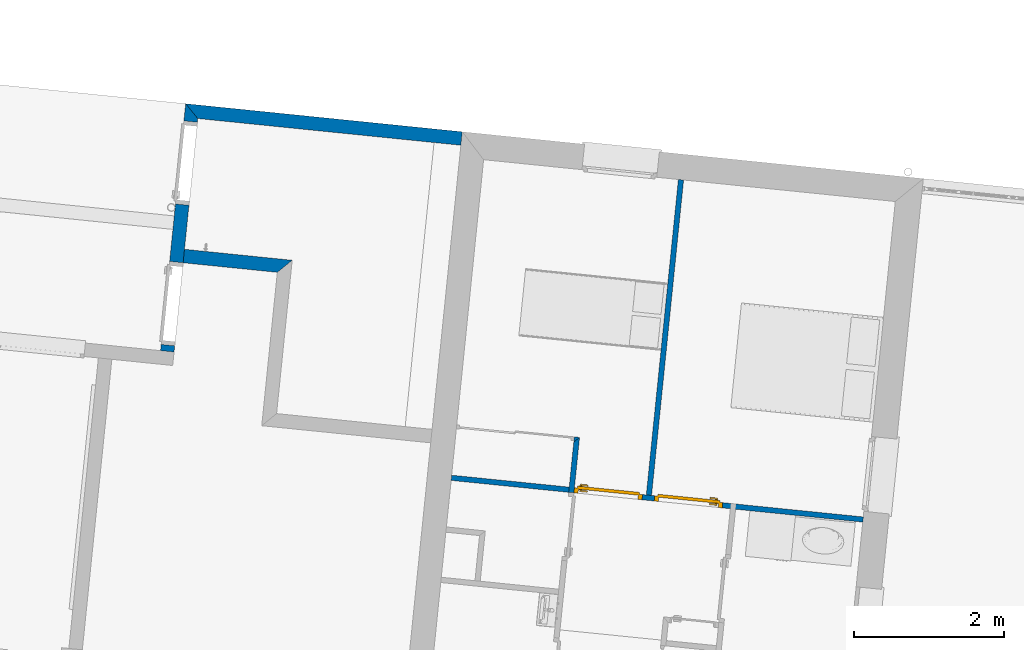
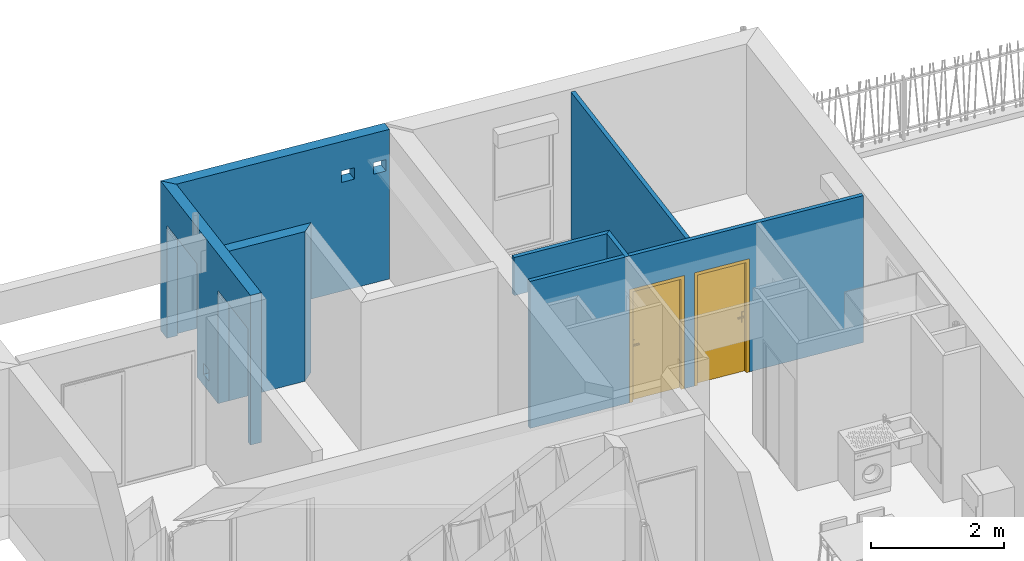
# One storey, part 80 of 171: 7 walls, 2 doors, 8 openings.
"""IFC2X3 building model written with IfcOpenShell, lengths in millimetres."""

from ifc_helpers import new_model, entity, si_unit, converted_unit, derived_unit, money_unit, direction, frame, origin_with_axes, origin_2d_with_axis, place, context, subcontext, project, spatial, polyline, rectangle, outline, extrude, faceted_brep, source, transform, mapped, material, layer, layer_set, layer_usage, type_object, element, fill, save


model = new_model("IFC2X3")

# Units and contexts
model_context = context("Model", 3, precision=0.01, world=origin_with_axes(), true_north=direction((0.0, 1.0)))
body_context = subcontext(model_context, "Body", "Model", "MODEL_VIEW")
ifc_project = project(units=[si_unit("LENGTHUNIT", "METRE", prefix="MILLI"), si_unit("AREAUNIT", "SQUARE_METRE"), si_unit("VOLUMEUNIT", "CUBIC_METRE"), converted_unit("PLANEANGLEUNIT", "DEGREE", entity("IfcPlaneAngleMeasure", 0.0174532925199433), si_unit("PLANEANGLEUNIT", "RADIAN"), dimensions=[0, 0, 0, 0, 0, 0, 0]), money_unit("USD"), converted_unit("TIMEUNIT", "Year", entity("IfcTimeMeasure", 31557600.0), si_unit("TIMEUNIT", "SECOND"), dimensions=[0, 0, 1, 0, 0, 0, 0]), si_unit("MASSUNIT", "GRAM", prefix="KILO"), si_unit("THERMODYNAMICTEMPERATUREUNIT", "DEGREE_CELSIUS"), si_unit("LUMINOUSINTENSITYUNIT", "LUMEN"), si_unit("ENERGYUNIT", "JOULE", prefix="MEGA"), derived_unit("THERMALCONDUCTANCEUNIT", [(si_unit("POWERUNIT", "WATT"), 1), (si_unit("LENGTHUNIT", "METRE"), -1), (si_unit("THERMODYNAMICTEMPERATUREUNIT", "KELVIN"), -1)]), derived_unit("SPECIFICHEATCAPACITYUNIT", [(si_unit("ENERGYUNIT", "JOULE"), 1), (si_unit("MASSUNIT", "GRAM", prefix="KILO"), -1), (si_unit("THERMODYNAMICTEMPERATUREUNIT", "KELVIN"), -1)]), derived_unit("MASSDENSITYUNIT", [(si_unit("MASSUNIT", "GRAM", prefix="KILO"), 1), (si_unit("VOLUMEUNIT", "CUBIC_METRE"), -1)])], contexts=[model_context])

# Site, building, storey
site_placement = place(None, origin_with_axes())
site = spatial("IfcSite", under=ifc_project, at=site_placement, Name="Site", CompositionType="ELEMENT")
building_placement = place(site_placement, origin_with_axes())
building = spatial("IfcBuilding", under=site, at=building_placement, Name="Bâtiment", CompositionType="ELEMENT")
storey_placement = place(building_placement, frame((0.0, 0.0, 3000.0), z_axis=(0.0, 0.0, 1.0), x_axis=(1.0, 0.0, 0.0)))
storey = spatial("IfcBuildingStorey", under=building, at=storey_placement, Name="rdc", CompositionType="ELEMENT", Elevation=3000.0)

# Wall, openings
ifc_material_1 = material(Name="Parpaing 314940890")
ifc_layer_1 = layer(ifc_material_1, 180.0, ventilated="UNKNOWN")
ifc_layer_set_1 = layer_set([ifc_layer_1], Name="Beton  18 0018356637")
ifc_layer_usage_1 = layer_usage(ifc_layer_set_1, "AXIS2", "POSITIVE", 0.0)
wall_type_1 = type_object("IfcWallType", Name="Beton  18 0018356637 180", PredefinedType="NOTDEFINED")
wall_1_placement = place(storey_placement, frame((2230375.549323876, -605239.4852255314, 0.0), z_axis=(0.0, 0.0, 1.0), x_axis=(-0.1011032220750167, -0.9948759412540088, 0.0)))
wall_1 = element("IfcWallStandardCase", 1, at=wall_1_placement, inside=storey, type_object=wall_type_1, material=ifc_layer_usage_1, Name="Mur-142", context=body_context, shape_type="SweptSolid", body=[
    extrude(outline(polyline([(0.0, 0.0), (3300.366692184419, 0.0), (3300.383693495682, 180.0000000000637), (180.000000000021, 180.0000000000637), (0.0, 0.0)])), origin_with_axes(), (0.0, 0.0, 1.0), 2750.0),
])
opening_1_placement = place(wall_1_placement, frame((1679.999976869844, -1.13686837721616e-10, 200.0000000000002), z_axis=(0.0, 0.0, 1.0), x_axis=(1.0, 0.0, 0.0)))
element("IfcOpeningElement", 2, at=opening_1_placement, cuts=wall_1, Name="Fen-210", context=body_context, shape_type="SweptSolid", body=[
    extrude(rectangle(XDim=209.9999999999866, YDim=210.0, at=origin_2d_with_axis()), frame((0.0, 290.0000000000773, 105.0), z_axis=(0.0, 1.0, 0.0), x_axis=(1.0, 0.0, 0.0)), (0.0, 0.0, -1.0), 470.0),
    extrude(rectangle(XDim=209.9999999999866, YDim=210.0, at=origin_2d_with_axis()), frame((0.0, 289.9999999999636, 105.0), z_axis=(0.0, -1.0, 0.0), x_axis=(1.0, 0.0, 0.0)), (0.0, 0.0, -1.0), 470.0),
])
opening_2_placement = place(wall_1_placement, frame((2662.573142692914, 0.0, 0.0), z_axis=(0.0, 0.0, 1.0), x_axis=(1.0, 0.0, 0.0)))
element("IfcOpeningElement", 3, at=opening_2_placement, cuts=wall_1, Name="Por-302", context=body_context, shape_type="SweptSolid", body=[
    extrude(rectangle(XDim=1109.999992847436, YDim=2080.0, at=origin_2d_with_axis()), frame((-3.576268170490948e-06, 179.9999999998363, 1040.0), z_axis=(0.0, 1.0, 0.0), x_axis=(1.0, 0.0, 0.0)), (0.0, 0.0, -1.0), 360.0),
])
opening_3_placement = place(wall_1_placement, frame((784.7579754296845, -1.13686837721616e-10, 0.0), z_axis=(0.0, 0.0, 1.0), x_axis=(1.0, 0.0, 0.0)))
element("IfcOpeningElement", 4, at=opening_3_placement, cuts=wall_1, Name="Por-302", context=body_context, shape_type="SweptSolid", body=[
    extrude(rectangle(XDim=1109.999992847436, YDim=2080.0, at=origin_2d_with_axis()), frame((3.576296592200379e-06, 179.99999999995, 1040.0), z_axis=(0.0, -1.0, 0.0), x_axis=(-1.0, 0.0, 0.0)), (0.0, 0.0, 1.0), 360.0),
])

# Wall
ifc_material_2 = material(Name="Hachure solide 268963992")
ifc_layer_2 = layer(ifc_material_2, 70.0, ventilated="UNKNOWN")
ifc_layer_set_2 = layer_set([ifc_layer_2], Name="Cloison 70 0826278243")
ifc_layer_usage_2 = layer_usage(ifc_layer_set_2, "AXIS2", "NEGATIVE", 0.0)
wall_type_2 = type_object("IfcWallType", Name="Cloison 70 0826278243 70", PredefinedType="NOTDEFINED")
wall_2_placement = place(storey_placement, frame((2235612.22344796, -609676.500557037, 0.0), z_axis=(0.0, 0.0, 1.0), x_axis=(-0.1011032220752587, -0.9948759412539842, 0.0)))
element("IfcWallStandardCase", 5, at=wall_2_placement, inside=storey, type_object=wall_type_2, material=ifc_layer_usage_2, Name="Mur-153", context=body_context, shape_type="SweptSolid", body=[
    extrude(outline(polyline([(70.00000000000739, -69.99999999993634), (740.000000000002, -69.99999999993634), (739.9999999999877, 0.0), (0.0, 0.0), (70.00000000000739, -69.99999999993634)])), origin_with_axes(), (0.0, 0.0, 1.0), 2700.0),
])

# Wall, openings, doors
ifc_layer_usage_3 = layer_usage(ifc_layer_set_2, "AXIS2", "NEGATIVE", 0.0)
wall_3_placement = place(storey_placement, frame((2233911.506301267, -610178.5677664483, 0.0), z_axis=(0.0, 0.0, 1.0), x_axis=(0.994902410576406, -0.1008424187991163, 0.0)))
wall_3 = element("IfcWallStandardCase", 6, at=wall_3_placement, inside=storey, type_object=wall_type_2, material=ifc_layer_usage_3, Name="Mur-153", context=body_context, shape_type="SweptSolid", body=[
    extrude(outline(polyline([(2.273736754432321e-10, -70.00000000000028), (5502.991472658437, -70.00000000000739), (5502.991472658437, 0.0), (2.273736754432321e-10, 0.0), (2.273736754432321e-10, -70.00000000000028)])), origin_with_axes(), (0.0, 0.0, 1.0), 2700.0),
])
opening_4_placement = place(wall_3_placement, frame((2096.242148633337, 0.0, 0.0), z_axis=(0.0, 0.0, 1.0), x_axis=(1.0, 0.0, 0.0)))
opening_4 = element("IfcOpeningElement", 7, at=opening_4_placement, cuts=wall_3, Name="Por-281", context=body_context, shape_type="SweptSolid", body=[
    extrude(rectangle(XDim=910.0, YDim=2080.0, at=origin_2d_with_axis()), frame((1.13686837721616e-10, -69.99999999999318, 1040.0), z_axis=(0.0, 1.0, 0.0), x_axis=(1.0, 0.0, 0.0)), (0.0, 0.0, 1.0), 140.0),
])
opening_5_placement = place(wall_3_placement, frame((3168.361496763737, 0.0, 0.0), z_axis=(0.0, 0.0, 1.0), x_axis=(1.0, 0.0, 0.0)))
opening_5 = element("IfcOpeningElement", 8, at=opening_5_placement, cuts=wall_3, Name="Por-282", context=body_context, shape_type="SweptSolid", body=[
    extrude(rectangle(XDim=910.0, YDim=2080.0, at=origin_2d_with_axis()), frame((-1.13686837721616e-10, -70.00000000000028, 1040.0), z_axis=(0.0, -1.0, 0.0), x_axis=(-1.0, 0.0, 0.0)), (0.0, 0.0, -1.0), 140.0),
])
door_style = type_object("IfcDoorStyle", Name="Porte_1v", ConstructionType="NOTDEFINED", OperationType="NOTDEFINED", ParameterTakesPrecedence=False, Sizeable=False)
shared_shape_1 = source(origin_with_axes(), body_context, "Body", "Brep", [
    faceted_brep([(455.0, 0.0, 0.0), (415.0000000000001, 0.0, 0.0), (415.0000000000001, 0.0, 2040.0), (-415.0000000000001, 0.0, 2040.0), (-415.0000000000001, 0.0, 0.0), (-455.0, 0.0, 0.0), (-455.0, 0.0, 2080.0), (455.0, 0.0, 2080.0), (455.0, -70.0, 0.0), (400.0, -70.0, 0.0), (400.0, -15.0, 0.0), (415.0000000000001, -15.0, 0.0), (415.0000000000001, -15.0, 2040.0), (-415.0000000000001, -15.0, 2040.0), (-415.0000000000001, -15.0, 0.0), (-400.0, -15.0, 0.0), (-400.0, -70.0, 0.0), (-455.0, -70.0, 0.0), (-455.0, -70.0, 2080.0), (455.0, -70.0, 2080.0), (-400.0, -70.0, 2025.0), (400.0, -70.0, 2025.0), (400.0, -15.0, 2025.0), (-400.0, -15.0, 2025.0)], [[[0, 1, 2, 3, 4, 5, 6, 7]], [[0, 8, 9, 10, 11, 1]], [[1, 11, 12, 2]], [[2, 12, 13, 3]], [[3, 13, 14, 4]], [[5, 4, 14, 15, 16, 17]], [[18, 6, 5, 17]], [[19, 7, 6, 18]], [[8, 0, 7, 19]], [[9, 8, 19, 18, 17, 16, 20, 21]], [[10, 9, 21, 22]], [[11, 10, 22, 23, 15, 14, 13, 12]], [[23, 20, 16, 15]], [[22, 21, 20, 23]]]),
    faceted_brep([(-350.0000000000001, -15.0, 900.0), (-390.0, -15.0, 900.0), (-390.0, -15.0, 1100.0), (-350.0000000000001, -15.0, 1100.0), (-350.0000000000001, -25.0, 900.0), (-390.0, -25.0, 900.0), (-390.0, -25.0, 1100.0), (-350.0000000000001, -25.0, 1100.0)], [[[0, 1, 2, 3]], [[1, 0, 4, 5]], [[2, 1, 5, 6]], [[3, 2, 6, 7]], [[0, 3, 7, 4]], [[5, 4, 7, 6]]]),
    faceted_brep([(-280.0, -25.0, 1000.0), (-380.0, -25.0, 1000.0), (-380.0, -25.0, 1020.0), (-280.0, -25.0, 1020.0), (-280.0, -45.0, 1000.0), (-380.0, -45.0, 1000.0), (-380.0, -45.0, 1020.0), (-280.0, -45.0, 1020.0)], [[[0, 1, 2, 3]], [[1, 0, 4, 5]], [[2, 1, 5, 6]], [[3, 2, 6, 7]], [[0, 3, 7, 4]], [[5, 4, 7, 6]]]),
    faceted_brep([(-350.0000000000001, 35.0, 900.0), (-390.0, 35.0, 900.0), (-390.0, 35.0, 1100.0), (-350.0000000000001, 35.0, 1100.0), (-350.0000000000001, 25.0, 900.0), (-390.0, 25.0, 900.0), (-390.0, 25.0, 1100.0), (-350.0000000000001, 25.0, 1100.0)], [[[0, 1, 2, 3]], [[1, 0, 4, 5]], [[2, 1, 5, 6]], [[3, 2, 6, 7]], [[0, 3, 7, 4]], [[5, 4, 7, 6]]]),
    faceted_brep([(-280.0, 55.00000000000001, 1000.0), (-380.0, 55.00000000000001, 1000.0), (-380.0, 55.00000000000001, 1020.0), (-280.0, 55.00000000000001, 1020.0), (-280.0, 35.0, 1000.0), (-380.0, 35.0, 1000.0), (-380.0, 35.0, 1020.0), (-280.0, 35.0, 1020.0)], [[[0, 1, 2, 3]], [[1, 0, 4, 5]], [[2, 1, 5, 6]], [[3, 2, 6, 7]], [[0, 3, 7, 4]], [[5, 4, 7, 6]]]),
    faceted_brep([(-415.0000000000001, 25.0, 0.0), (415.0000000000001, 25.0, 0.0), (415.0000000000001, -15.0, 0.0), (-415.0000000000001, -15.0, 0.0), (-415.0000000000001, 25.0, 2040.0), (415.0000000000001, 25.0, 2040.0), (415.0000000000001, -15.0, 2040.0), (-415.0000000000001, -15.0, 2040.0)], [[[0, 1, 2, 3]], [[0, 4, 5, 1]], [[1, 5, 6, 2]], [[3, 2, 6, 7]], [[4, 0, 3, 7]], [[5, 4, 7, 6]]]),
])
door_1_placement = place(opening_4_placement, frame((-414.9999999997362, 0.0, 0.0), z_axis=(0.0, 0.0, 1.0), x_axis=(1.0, 0.0, 0.0)))
door_1 = element("IfcDoor", 9, at=door_1_placement, inside=storey, type_object=door_style, Name="Por-281", OverallHeight=2040.0, OverallWidth=830.0, context=body_context, shape_type="MappedRepresentation", body=[
    mapped(shared_shape_1, transform((414.9999999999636, 0.0, 0.0))),
])
fill(opening_4, door_1)
shared_shape_2 = source(origin_with_axes(), body_context, "Body", "Brep", [
    faceted_brep([(-454.9999999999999, 0.0, 0.0), (-454.9999999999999, 0.0, 2080.0), (454.9999999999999, 0.0, 2080.0), (454.9999999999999, 0.0, 0.0), (414.9999999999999, 0.0, 0.0), (414.9999999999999, 0.0, 2040.0), (-414.9999999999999, 0.0, 2040.0), (-414.9999999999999, 0.0, 0.0), (-454.9999999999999, -69.99999999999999, 0.0), (-454.9999999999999, -69.99999999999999, 2080.0), (454.9999999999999, -69.99999999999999, 2080.0), (454.9999999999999, -69.99999999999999, 0.0), (399.9999999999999, -69.99999999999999, 0.0), (399.9999999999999, -15.0, 0.0), (414.9999999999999, -15.0, 0.0), (414.9999999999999, -15.0, 2040.0), (-414.9999999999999, -14.99999999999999, 2040.0), (-414.9999999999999, -14.99999999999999, 0.0), (-399.9999999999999, -14.99999999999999, 0.0), (-399.9999999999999, -69.99999999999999, 0.0), (-399.9999999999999, -69.99999999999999, 2025.0), (399.9999999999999, -69.99999999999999, 2025.0), (399.9999999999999, -15.0, 2025.0), (-399.9999999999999, -14.99999999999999, 2025.0)], [[[0, 1, 2, 3, 4, 5, 6, 7]], [[8, 9, 1, 0]], [[9, 10, 2, 1]], [[10, 11, 3, 2]], [[3, 11, 12, 13, 14, 4]], [[5, 4, 14, 15]], [[6, 5, 15, 16]], [[7, 6, 16, 17]], [[0, 7, 17, 18, 19, 8]], [[19, 20, 21, 12, 11, 10, 9, 8]], [[22, 13, 12, 21]], [[17, 16, 15, 14, 13, 22, 23, 18]], [[18, 23, 20, 19]], [[23, 22, 21, 20]]]),
    faceted_brep([(350.0, -15.0, 900.0), (350.0, -15.0, 1100.0), (389.9999999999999, -15.0, 1100.0), (389.9999999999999, -15.0, 900.0), (350.0, -25.0, 900.0), (350.0, -25.0, 1100.0), (389.9999999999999, -25.0, 1100.0), (389.9999999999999, -25.0, 900.0)], [[[0, 1, 2, 3]], [[0, 4, 5, 1]], [[1, 5, 6, 2]], [[2, 6, 7, 3]], [[3, 7, 4, 0]], [[7, 6, 5, 4]]]),
    faceted_brep([(279.9999999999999, -25.0, 1000.0), (279.9999999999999, -25.0, 1020.0), (379.9999999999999, -25.0, 1020.0), (379.9999999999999, -25.0, 1000.0), (279.9999999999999, -45.0, 1000.0), (279.9999999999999, -45.0, 1020.0), (379.9999999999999, -45.0, 1020.0), (379.9999999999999, -45.0, 1000.0)], [[[0, 1, 2, 3]], [[0, 4, 5, 1]], [[1, 5, 6, 2]], [[2, 6, 7, 3]], [[3, 7, 4, 0]], [[7, 6, 5, 4]]]),
    faceted_brep([(350.0, 34.99999999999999, 900.0), (350.0, 34.99999999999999, 1100.0), (389.9999999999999, 34.99999999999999, 1100.0), (389.9999999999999, 34.99999999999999, 900.0), (350.0, 24.99999999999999, 900.0), (350.0, 24.99999999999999, 1100.0), (389.9999999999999, 24.99999999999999, 1100.0), (389.9999999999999, 24.99999999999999, 900.0)], [[[0, 1, 2, 3]], [[0, 4, 5, 1]], [[1, 5, 6, 2]], [[2, 6, 7, 3]], [[3, 7, 4, 0]], [[7, 6, 5, 4]]]),
    faceted_brep([(279.9999999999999, 54.99999999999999, 1000.0), (279.9999999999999, 54.99999999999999, 1020.0), (379.9999999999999, 54.99999999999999, 1020.0), (379.9999999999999, 54.99999999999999, 1000.0), (279.9999999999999, 34.99999999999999, 1000.0), (279.9999999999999, 34.99999999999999, 1020.0), (379.9999999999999, 34.99999999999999, 1020.0), (379.9999999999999, 34.99999999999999, 1000.0)], [[[0, 1, 2, 3]], [[0, 4, 5, 1]], [[1, 5, 6, 2]], [[2, 6, 7, 3]], [[3, 7, 4, 0]], [[7, 6, 5, 4]]]),
    faceted_brep([(414.9999999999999, 24.99999999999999, 0.0), (414.9999999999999, -15.0, 0.0), (-414.9999999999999, -14.99999999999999, 0.0), (-414.9999999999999, 25.0, 0.0), (414.9999999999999, 24.99999999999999, 2040.0), (414.9999999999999, -15.0, 2040.0), (-414.9999999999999, -14.99999999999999, 2040.0), (-414.9999999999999, 25.0, 2040.0)], [[[0, 1, 2, 3]], [[4, 5, 1, 0]], [[1, 5, 6, 2]], [[3, 2, 6, 7]], [[0, 3, 7, 4]], [[7, 6, 5, 4]]]),
])
door_2_placement = place(opening_5_placement, frame((-414.9999999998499, 0.0, 0.0), z_axis=(0.0, 0.0, 1.0), x_axis=(1.0, 0.0, 0.0)))
door_2 = element("IfcDoor", 10, at=door_2_placement, inside=storey, type_object=door_style, Name="Por-282", OverallHeight=2040.0, OverallWidth=830.0, context=body_context, shape_type="MappedRepresentation", body=[
    mapped(shared_shape_2, transform((414.9999999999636, 0.0, 0.0))),
])
fill(opening_5, door_2)

# Wall, opening
ifc_layer_usage_4 = layer_usage(ifc_layer_set_2, "AXIS2", "NEGATIVE", 0.0)
wall_4_placement = place(storey_placement, frame((2234019.011234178, -609514.5920400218, 0.0), z_axis=(0.0, 0.0, 1.0), x_axis=(0.9948759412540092, -0.1011032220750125, 0.0)))
wall_4 = element("IfcWallStandardCase", 11, at=wall_4_placement, inside=storey, type_object=wall_type_2, material=ifc_layer_usage_4, Name="Mur-153", context=body_context, shape_type="SweptSolid", body=[
    extrude(outline(polyline([(0.0, -69.99999999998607), (1531.417973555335, -69.99999999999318), (1601.417973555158, 0.0), (0.0, 0.0), (0.0, -69.99999999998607)])), origin_with_axes(), (0.0, 0.0, 1.0), 2700.0),
])
opening_6_placement = place(wall_4_placement, frame((745.7089867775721, 0.0, 0.0), z_axis=(0.0, 0.0, 1.0), x_axis=(1.0, 0.0, 0.0)))
element("IfcOpeningElement", 12, at=opening_6_placement, cuts=wall_4, Name="Por-325", context=body_context, shape_type="SweptSolid", body=[
    extrude(rectangle(XDim=1571.417973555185, YDim=2000.0, at=origin_2d_with_axis()), frame((0.0, 0.0, 1000.0), z_axis=(0.0, -1.0, 0.0), x_axis=(1.0, 0.0, 0.0)), (0.0, 0.0, -1.0), 70.0),
    extrude(rectangle(XDim=1571.417973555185, YDim=2000.0, at=origin_2d_with_axis()), frame((0.0, 0.0, 1000.0), z_axis=(0.0, 1.0, 0.0), x_axis=(1.0, 0.0, 0.0)), (0.0, 0.0, -1.0), 70.0),
])

# Walls
ifc_layer_usage_5 = layer_usage(ifc_layer_set_2, "AXIS2", "NEGATIVE", 0.0)
wall_5_placement = place(storey_placement, frame((2237030.094661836, -605915.7464026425, 0.0), z_axis=(0.0, 0.0, 1.0), x_axis=(-0.1011032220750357, -0.9948759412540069, 0.0)))
element("IfcWallStandardCase", 13, at=wall_5_placement, inside=storey, type_object=wall_type_2, material=ifc_layer_usage_5, Name="Mur-153", context=body_context, shape_type="SweptSolid", body=[
    extrude(outline(polyline([(339.9999999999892, -70.00000000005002), (4555.59575076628, -70.00000000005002), (4555.577400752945, 0.0), (339.9999999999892, -1.13686837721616e-10), (339.9999999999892, -70.00000000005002)])), origin_with_axes(), (0.0, 0.0, 1.0), 2700.0),
])
ifc_material_3 = material(Name="Parpaing 312445824")
ifc_layer_3 = layer(ifc_material_3, 180.0, ventilated="UNKNOWN")
ifc_layer_set_3 = layer_set([ifc_layer_3], Name="Beton  18 0836643197")
ifc_layer_usage_6 = layer_usage(ifc_layer_set_3, "AXIS2", "NEGATIVE", 0.0)
wall_type_3 = type_object("IfcWallType", Name="Beton  18 0836643197 180", PredefinedType="NOTDEFINED")
wall_6_placement = place(storey_placement, frame((2230180.665481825, -607157.1813592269, 0.0), z_axis=(0.0, 0.0, 1.0), x_axis=(0.9948668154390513, -0.1011929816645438, 0.0)))
element("IfcWallStandardCase", 14, at=wall_6_placement, inside=storey, type_object=wall_type_3, material=ifc_layer_usage_6, Name="Mur-142", context=body_context, shape_type="SweptSolid", body=[
    extrude(outline(polyline([(180.0162284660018, -179.9999999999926), (1439.273399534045, -179.9999999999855), (1619.273399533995, 0.0), (179.9999884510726, 0.0), (180.0162284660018, -179.9999999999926)])), origin_with_axes(), (0.0, 0.0, 1.0), 2750.0),
])

# Wall, openings
ifc_layer_4 = layer(ifc_material_1, 180.0, ventilated="UNKNOWN")
ifc_layer_set_4 = layer_set([ifc_layer_4], Name="Beton  18")
ifc_layer_usage_7 = layer_usage(ifc_layer_set_4, "AXIS2", "POSITIVE", 0.0)
wall_type_4 = type_object("IfcWallType", Name="Beton  18 180", PredefinedType="NOTDEFINED")
wall_7_placement = place(storey_placement, frame((2234370.972385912, -605645.5158956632, 0.0), z_axis=(0.0, 0.0, 1.0), x_axis=(-0.9948759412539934, 0.1011032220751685, 0.0)))
wall_7 = element("IfcWallStandardCase", 15, at=wall_7_placement, inside=storey, type_object=wall_type_4, material=ifc_layer_usage_7, Name="Mur-142", context=body_context, shape_type="SweptSolid", body=[
    extrude(outline(polyline([(320.0000109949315, 0.0), (4016.001288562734, 0.0), (3836.00128856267, 179.9999999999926), (319.9528252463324, 179.9999999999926), (320.0000109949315, 0.0)])), origin_with_axes(), (0.0, 0.0, 1.0), 2750.0),
])
opening_7_placement = place(wall_7_placement, frame((1002.398973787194, 0.0, 2000.0), z_axis=(0.0, 0.0, 1.0), x_axis=(1.0, 0.0, 0.0)))
element("IfcOpeningElement", 16, at=opening_7_placement, cuts=wall_7, Name="Fen-210", context=body_context, shape_type="SweptSolid", body=[
    extrude(rectangle(XDim=209.9999999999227, YDim=210.0, at=origin_2d_with_axis()), frame((0.0, -110.0000000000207, 105.0000000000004), z_axis=(0.0, -1.0, 0.0), x_axis=(1.0, 0.0, 0.0)), (0.0, 0.0, -1.0), 470.0),
    extrude(rectangle(XDim=209.9999999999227, YDim=210.0, at=origin_2d_with_axis()), frame((0.0, -110.0000000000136, 105.0000000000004), z_axis=(0.0, 1.0, 0.0), x_axis=(1.0, 0.0, 0.0)), (0.0, 0.0, -1.0), 470.0),
])
opening_8_placement = place(wall_7_placement, frame((481.2875411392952, 0.0, 2000.0), z_axis=(0.0, 0.0, 1.0), x_axis=(1.0, 0.0, 0.0)))
element("IfcOpeningElement", 17, at=opening_8_placement, cuts=wall_7, Name="Fen-210", context=body_context, shape_type="SweptSolid", body=[
    extrude(rectangle(XDim=210.0000000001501, YDim=210.0, at=origin_2d_with_axis()), frame((0.0, -110.0000000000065, 105.0000000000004), z_axis=(0.0, -1.0, 0.0), x_axis=(1.0, 0.0, 0.0)), (0.0, 0.0, -1.0), 470.0),
    extrude(rectangle(XDim=210.0000000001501, YDim=210.0, at=origin_2d_with_axis()), frame((0.0, -109.9999999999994, 105.0000000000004), z_axis=(0.0, 1.0, 0.0), x_axis=(1.0, 0.0, 0.0)), (0.0, 0.0, -1.0), 470.0),
])

save(model, "model.ifc")
